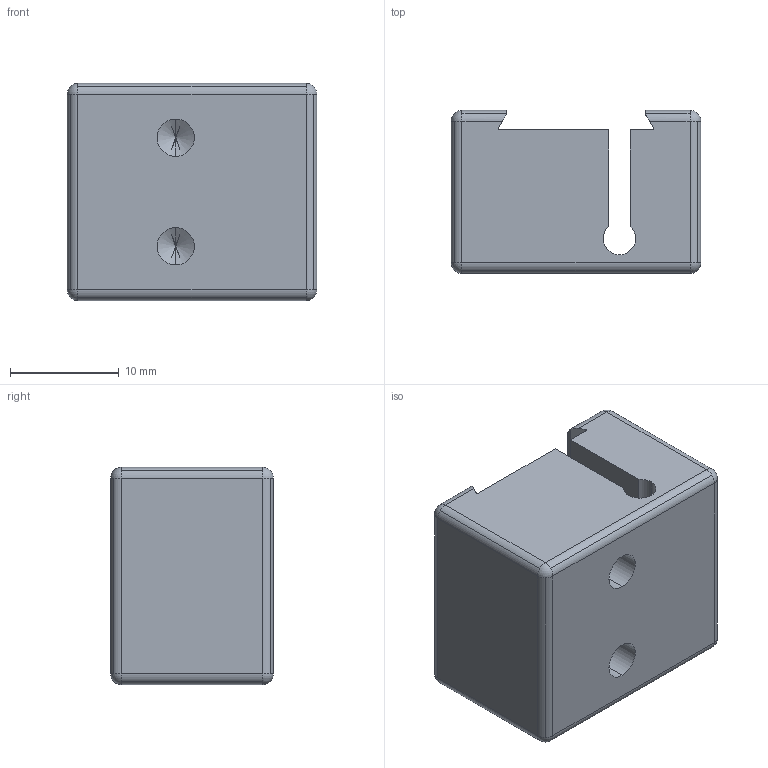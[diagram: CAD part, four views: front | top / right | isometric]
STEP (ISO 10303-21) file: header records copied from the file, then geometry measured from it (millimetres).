
FILE_DESCRIPTION((''),'2;1');
FILE_NAME('15300480_MK45.stp','2016-07-05T08:32:18',(''),(''),'Mechanical Desktop 2009','Mechanical Desktop 2009',', , ');
FILE_SCHEMA(('CONFIG_CONTROL_DESIGN'));
Length unit declared in the file: millimetre
Products named in the file (1): DRAWING2
Bounding box: 23 x 15 x 20 mm (x, y, z)
Volume: 5332 mm3; surface area: 3052.5 mm2
Topology: 1 solids, 1 shells, 75 faces, 194 edges, 111 vertices
Faces by surface type: cylinder 45, plane 16, sphere 8, cone 6
Entity records: 2291 total; most frequent: DIRECTION 426, CARTESIAN_POINT 367, ORIENTED_EDGE 360, EDGE_CURVE 180, AXIS2_PLACEMENT_3D 170, VERTEX_POINT 111, CIRCLE 90, VECTOR 86
